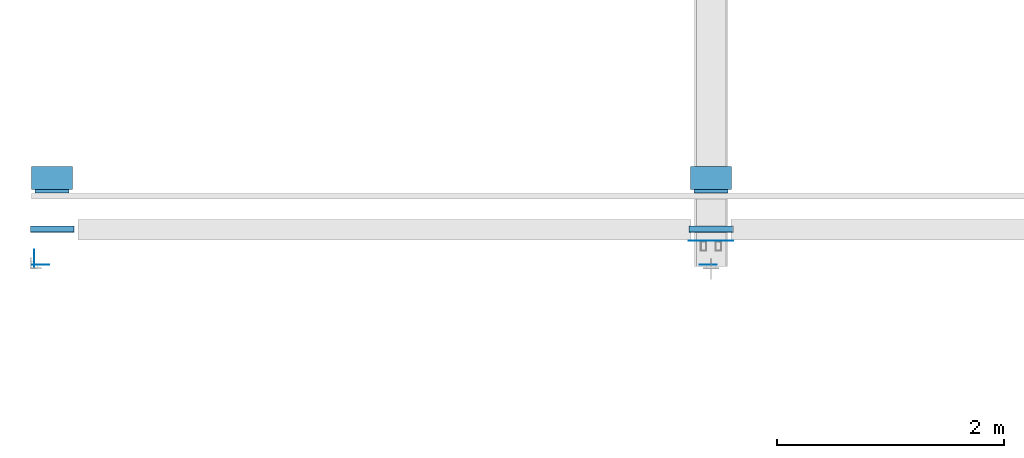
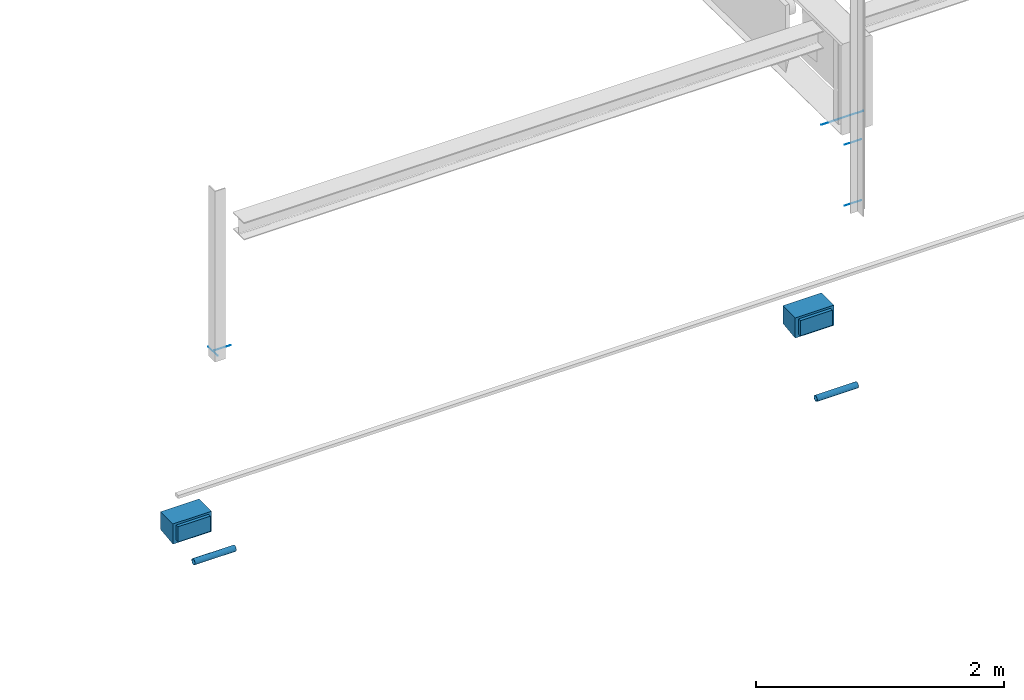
# One storey, part 8 of 186: 11 beams.
"""IFC4X3_ADD2 building model written with IfcOpenShell, lengths in millimetres."""

from ifc_helpers import new_model, entity, si_unit, direction, frame, frame_2d, origin_with_axes, place, context, subcontext, project, spatial, rectangle, hollow_circle, extrude, material, element, save


model = new_model("IFC4X3_ADD2")

# Units and contexts
model_context = context("Model", 3, precision=1e-05, world=origin_with_axes(), true_north=direction((0.0, 1.0)))
body_context = subcontext(model_context, "Body", "Model", "MODEL_VIEW")
ifc_project = project(units=[si_unit("LENGTHUNIT", "METRE", prefix="MILLI"), si_unit("AREAUNIT", "SQUARE_METRE"), si_unit("VOLUMEUNIT", "CUBIC_METRE"), si_unit("PLANEANGLEUNIT", "RADIAN"), si_unit("TIMEUNIT", "SECOND"), si_unit("MASSUNIT", "GRAM")], contexts=[model_context])

# Site, building, storey
site_placement = place(None, origin_with_axes())
site = spatial("IfcSite", under=ifc_project, at=site_placement, Name="Site", CompositionType="ELEMENT")
building_placement = place(site_placement, origin_with_axes())
building = spatial("IfcBuilding", under=site, at=building_placement, Name="IFC Building Story")
storey_placement = place(building_placement, frame((0.0, 0.0, 4370.0), z_axis=(0.0, 0.0, 1.0), x_axis=(1.0, 0.0, 0.0)))
storey = spatial("IfcBuildingStorey", under=building, at=storey_placement, Name="ETAGE 10 (1)", Elevation=4370.0)

# Beams
ifc_material_1 = material(Name="STEEL/Accessory_C60/75")
for number, where, z_axis, x_axis, name in (
    (1, (5141.18934822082, 799.999963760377, 1810.0), (-1.0, 0.0, 0.0), (0.0, 0.0, 1.0), "BEK1"),
    (2, (10936.1886362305, 799.999963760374, 1810.0), (-1.0, 0.0, 0.0), (0.0, 0.0, 1.0), "BEK1"),
):
    element("IfcBeam", number, at=place(storey_placement, frame(where, z_axis=z_axis, x_axis=x_axis)), inside=storey, material=ifc_material_1, Name=name, ObjectType="CORBEL200-200-175", context=body_context, shape_type="SweptSolid", body=[
        extrude(entity("IfcTrapeziumProfileDef", "AREA", None, entity("IfcAxis2Placement2D", entity("IfcCartesianPoint", [0.0, 5.95523630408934e-12]), entity("IfcDirection", [1.0, 0.0])), 200.0, 175.0, 200.0, 25.0), origin_with_axes(), (0.0, 0.0, 1.0), 360.0),
    ])
ifc_material_2 = material(Name="STEEL/Accessory_invisible")
beam_1_placement = place(storey_placement, frame((4934.189348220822, 36.9999637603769, 4019.5), z_axis=(-1.0, 0.0, 0.0), x_axis=(0.0, 1.0, 0.0)))
element("IfcBeam", 3, at=beam_1_placement, inside=storey, material=ifc_material_2, Name="RH14", ObjectType="1*1 3", context=body_context, shape_type="SweptSolid", body=[
    extrude(rectangle(XDim=0.9999999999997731, YDim=0.9999999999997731, at=frame_2d((0.0, 5.95523630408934e-12), x_axis=(1.0, 0.0))), origin_with_axes(), (0.0, 0.0, 1.0), 150.0000000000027),
])
beam_2_placement = place(storey_placement, frame((4802.68934822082, 92.999963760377, 3970.5), z_axis=(1.0, 0.0, 0.0), x_axis=(0.0, 0.0, -1.0)))
element("IfcBeam", 4, at=beam_2_placement, inside=storey, material=ifc_material_2, Name="RH14", ObjectType="1*1 6", context=body_context, shape_type="SweptSolid", body=[
    extrude(rectangle(XDim=0.9999999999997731, YDim=150.000000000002, at=frame_2d((0.0, 5.95523630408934e-12), x_axis=(1.0, 0.0))), origin_with_axes(), (0.0, 0.0, 1.0), 1.0),
])
beam_3_placement = place(storey_placement, frame((10951.1886362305, 249.999963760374, 4089.5), z_axis=(-1.0, 0.0, 0.0), x_axis=(0.0, 1.0, 0.0)))
element("IfcBeam", 5, at=beam_3_placement, inside=storey, material=ifc_material_2, Name="RH15", ObjectType="1*1 3", context=body_context, shape_type="SweptSolid", body=[
    extrude(rectangle(XDim=0.9999999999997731, YDim=0.9999999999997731, at=frame_2d((0.0, 5.95523630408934e-12), x_axis=(1.0, 0.0))), origin_with_axes(), (0.0, 0.0, 1.0), 390.0),
])
for number, where, z_axis, x_axis, name in (
    (6, (10806.1886362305, 36.9999637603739, 3989.5), (-1.0, 0.0, 0.0), (0.0, 1.0, 0.0), "RH14"),
    (7, (10806.1886362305, 36.9999637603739, 3389.5), (-1.0, 0.0, 0.0), (0.0, 1.0, 0.0), "RH14"),
):
    element("IfcBeam", number, at=place(storey_placement, frame(where, z_axis=z_axis, x_axis=x_axis)), inside=storey, material=ifc_material_2, Name=name, ObjectType="1*1 3", context=body_context, shape_type="SweptSolid", body=[
        extrude(rectangle(XDim=0.9999999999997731, YDim=0.9999999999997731, at=frame_2d((0.0, 5.95523630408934e-12), x_axis=(1.0, 0.0))), origin_with_axes(), (0.0, 0.0, 1.0), 150.0000000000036),
    ])
ifc_material_3 = material(Name="STEEL/Accessory_PVC")
beam_4_placement = place(storey_placement, frame((4769.18934816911, 349.999963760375, 1753.948), z_axis=(1.0, 0.0, 0.0), x_axis=(0.0, 0.0, -1.0)))
element("IfcBeam", 8, at=beam_4_placement, inside=storey, material=ifc_material_3, Name="PS13", ObjectType="O56*3", context=body_context, shape_type="SweptSolid", body=[
    extrude(hollow_circle(Radius=28.0, WallThickness=3.0, at=frame_2d((0.0, 5.95523630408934e-12), x_axis=(1.0, 0.0))), origin_with_axes(), (0.0, 0.0, 1.0), 383.9999999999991),
])
beam_5_placement = place(storey_placement, frame((10564.1886361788, 349.999963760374, 1333.48), z_axis=(1.0, 0.0, 0.0), x_axis=(0.0, 0.0, -1.0)))
element("IfcBeam", 9, at=beam_5_placement, inside=storey, material=ifc_material_3, Name="PS13", ObjectType="O56*3", context=body_context, shape_type="SweptSolid", body=[
    extrude(hollow_circle(Radius=28.0, WallThickness=3.0, at=frame_2d((0.0, 5.95523630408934e-12), x_axis=(1.0, 0.0))), origin_with_axes(), (0.0, 0.0, 1.0), 383.9999999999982),
])
ifc_material_4 = material(Name="STEEL/Accessory_EPS")
beam_6_placement = place(storey_placement, frame((5111.189348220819, 684.999963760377, 1815.00000000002), z_axis=(-1.0, 0.0, 0.0), x_axis=(0.0, 0.0, -1.0)))
element("IfcBeam", 10, at=beam_6_placement, inside=storey, material=ifc_material_4, Name="POL4", ObjectType="30*300 4", context=body_context, shape_type="SweptSolid", body=[
    extrude(rectangle(XDim=149.999999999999, YDim=29.9999999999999, at=frame_2d((0.0, 5.95523630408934e-12), x_axis=(1.0, 0.0))), origin_with_axes(), (0.0, 0.0, 1.0), 299.9999999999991),
])
beam_7_placement = place(storey_placement, frame((10906.1886362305, 684.999963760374, 1815.00000000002), z_axis=(-1.0, 0.0, 0.0), x_axis=(0.0, 0.0, -1.0)))
element("IfcBeam", 11, at=beam_7_placement, inside=storey, material=ifc_material_4, Name="POL4", ObjectType="30*300 4", context=body_context, shape_type="SweptSolid", body=[
    extrude(rectangle(XDim=149.999999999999, YDim=29.9999999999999, at=frame_2d((0.0, 5.95523630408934e-12), x_axis=(1.0, 0.0))), origin_with_axes(), (0.0, 0.0, 1.0), 300.0000000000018),
])

save(model, "model.ifc")
